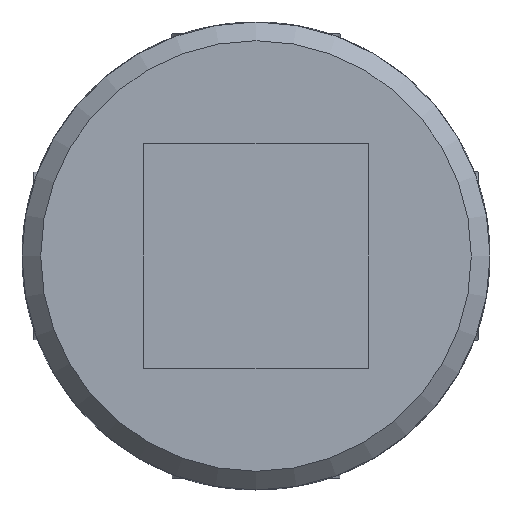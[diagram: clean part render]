
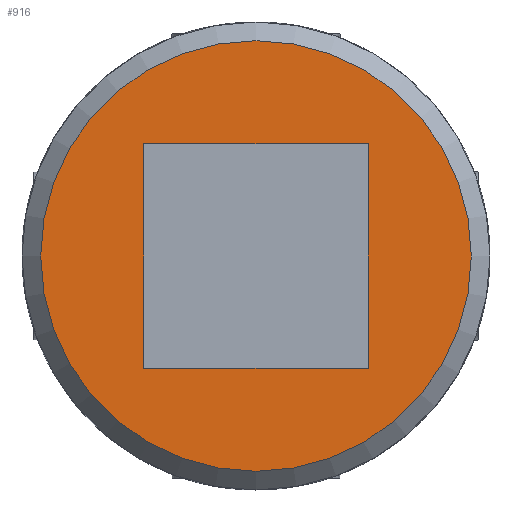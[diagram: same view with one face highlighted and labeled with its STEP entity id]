
A CAD part, front view. The second image highlights one B-rep face of the part: STEP entity #916.
In plain terms, the highlighted planar face has unit normal (0, -1, 0).
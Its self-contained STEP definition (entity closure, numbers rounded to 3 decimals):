
#101=LINE('',#1372,#141);
#105=LINE('',#1395,#145);
#112=LINE('',#1422,#152);
#115=LINE('',#1449,#155);
#141=VECTOR('',#1117,12.);
#145=VECTOR('',#1125,12.);
#152=VECTOR('',#1140,12.);
#155=VECTOR('',#1145,12.);
#182=PLANE('',#996);
#207=FACE_BOUND('',#312,.T.);
#241=FACE_OUTER_BOUND('',#311,.T.);
#311=EDGE_LOOP('',(#733));
#312=EDGE_LOOP('',(#734,#735,#736,#737));
#364=CIRCLE('',#994,11.5);
#407=VERTEX_POINT('',#1369);
#408=VERTEX_POINT('',#1371);
#414=VERTEX_POINT('',#1394);
#424=VERTEX_POINT('',#1420);
#431=VERTEX_POINT('',#1504);
#502=EDGE_CURVE('',#408,#407,#101,.T.);
#509=EDGE_CURVE('',#414,#408,#105,.T.);
#521=EDGE_CURVE('',#407,#424,#112,.T.);
#527=EDGE_CURVE('',#424,#414,#115,.T.);
#538=EDGE_CURVE('',#431,#431,#364,.T.);
#733=ORIENTED_EDGE('',*,*,#538,.F.);
#734=ORIENTED_EDGE('',*,*,#521,.T.);
#735=ORIENTED_EDGE('',*,*,#527,.T.);
#736=ORIENTED_EDGE('',*,*,#509,.T.);
#737=ORIENTED_EDGE('',*,*,#502,.T.);
#916=ADVANCED_FACE('',(#241,#207),#182,.F.);
#994=AXIS2_PLACEMENT_3D('',#1505,#1174,#1175);
#996=AXIS2_PLACEMENT_3D('',#1721,#1182,#1183);
#1117=DIRECTION('',(-1.,0.,0.));
#1125=DIRECTION('',(0.,0.,-1.));
#1140=DIRECTION('',(0.,0.,1.));
#1145=DIRECTION('',(1.,0.,0.));
#1174=DIRECTION('center_axis',(0.,1.,0.));
#1175=DIRECTION('ref_axis',(1.,0.,0.));
#1182=DIRECTION('center_axis',(0.,1.,0.));
#1183=DIRECTION('ref_axis',(0.,0.,1.));
#1369=CARTESIAN_POINT('',(-6.,-43.5,-6.));
#1371=CARTESIAN_POINT('',(6.,-43.5,-6.));
#1372=CARTESIAN_POINT('',(3.,-43.5,-6.));
#1394=CARTESIAN_POINT('',(6.,-43.5,6.));
#1395=CARTESIAN_POINT('',(6.,-43.5,3.));
#1420=CARTESIAN_POINT('',(-6.,-43.5,6.));
#1422=CARTESIAN_POINT('',(-6.,-43.5,-3.));
#1449=CARTESIAN_POINT('',(-3.,-43.5,6.));
#1504=CARTESIAN_POINT('',(-11.5,-43.5,0.));
#1505=CARTESIAN_POINT('Origin',(0.,-43.5,0.));
#1721=CARTESIAN_POINT('Origin',(0.,-43.5,0.));
